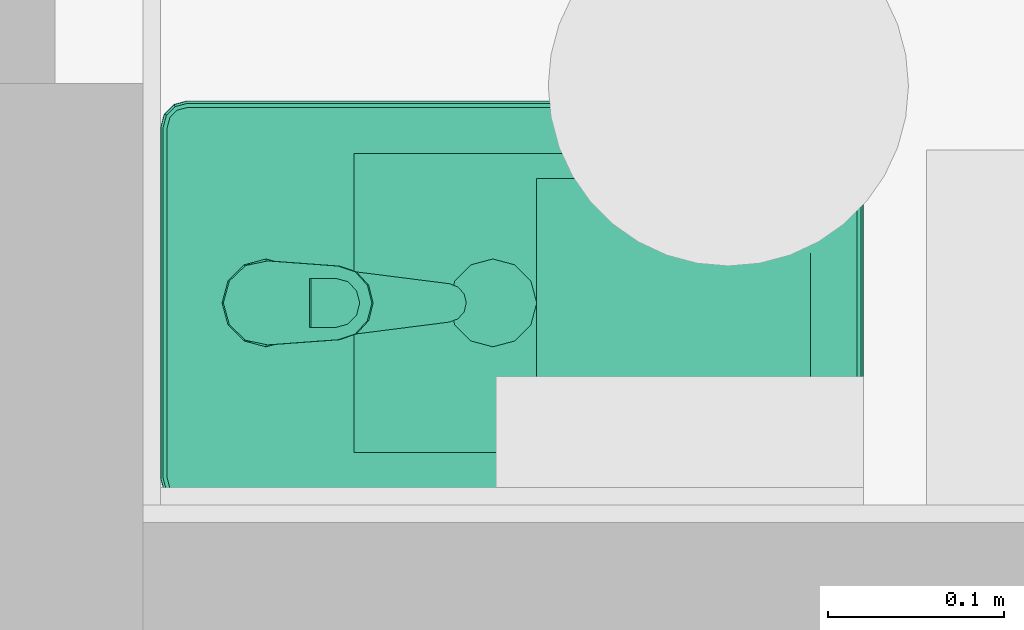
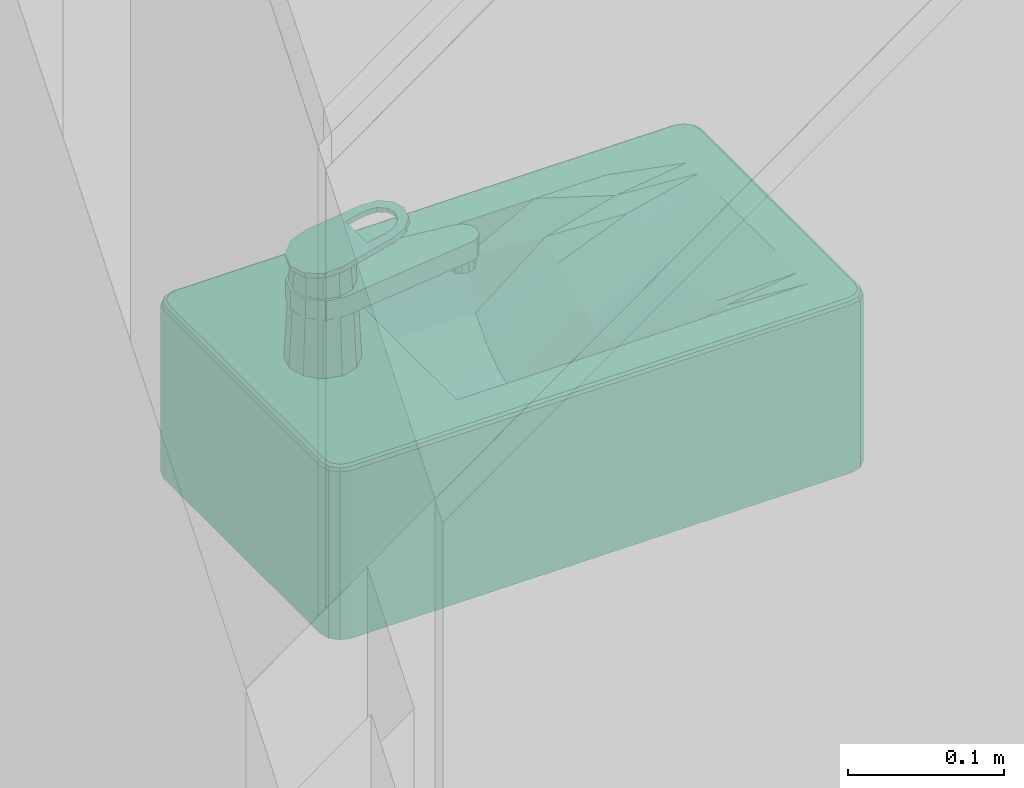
# One storey, part 262 of 301: 1 flow terminal.
"""IFC2X3 building model written with IfcOpenShell, lengths in millimetres."""

from ifc_helpers import new_model, entity, si_unit, converted_unit, derived_unit, money_unit, direction, frame, origin_with_axes, place, context, subcontext, project, spatial, open_shell, faceted_brep, surface_model, source, transform, mapped, type_object, element, save


model = new_model("IFC2X3")

# Units and contexts
model_context = context("Model", 3, precision=0.01, world=origin_with_axes(), true_north=direction((0.0, 1.0)))
body_context = subcontext(model_context, "Body", "Model", "MODEL_VIEW")
ifc_project = project(units=[si_unit("LENGTHUNIT", "METRE", prefix="MILLI"), si_unit("AREAUNIT", "SQUARE_METRE"), si_unit("VOLUMEUNIT", "CUBIC_METRE"), converted_unit("PLANEANGLEUNIT", "DEGREE", entity("IfcPlaneAngleMeasure", 0.0174532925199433), si_unit("PLANEANGLEUNIT", "RADIAN"), dimensions=[0, 0, 0, 0, 0, 0, 0]), money_unit("EUR"), converted_unit("TIMEUNIT", "Year", entity("IfcTimeMeasure", 31557600.0), si_unit("TIMEUNIT", "SECOND"), dimensions=[0, 0, 1, 0, 0, 0, 0]), si_unit("MASSUNIT", "GRAM", prefix="KILO"), si_unit("THERMODYNAMICTEMPERATUREUNIT", "DEGREE_CELSIUS"), si_unit("LUMINOUSINTENSITYUNIT", "LUMEN"), si_unit("ENERGYUNIT", "JOULE", prefix="MEGA"), derived_unit("THERMALCONDUCTANCEUNIT", [(si_unit("POWERUNIT", "WATT"), 1), (si_unit("LENGTHUNIT", "METRE"), -1), (si_unit("THERMODYNAMICTEMPERATUREUNIT", "KELVIN"), -1)]), derived_unit("SPECIFICHEATCAPACITYUNIT", [(si_unit("ENERGYUNIT", "JOULE"), 1), (si_unit("MASSUNIT", "GRAM", prefix="KILO"), -1), (si_unit("THERMODYNAMICTEMPERATUREUNIT", "KELVIN"), -1)]), derived_unit("MASSDENSITYUNIT", [(si_unit("MASSUNIT", "GRAM", prefix="KILO"), 1), (si_unit("VOLUMEUNIT", "CUBIC_METRE"), -1)])], contexts=[model_context])

# Site, building, storey
site_placement = place(None, frame((0.0, 0.0, 8650.0), z_axis=(0.0, 0.0, 1.0), x_axis=(1.0, 0.0, 0.0)))
site = spatial("IfcSite", under=ifc_project, at=site_placement, Name="43301:001:0844", CompositionType="ELEMENT")
building_placement = place(site_placement, origin_with_axes())
building = spatial("IfcBuilding", under=site, at=building_placement, Name="Kuressaare Ametikooli tuulikute mehaanikute õppekorpus", CompositionType="ELEMENT")
storey_placement = place(building_placement, origin_with_axes())
storey = spatial("IfcBuildingStorey", under=building, at=storey_placement, Name="1.korrus", CompositionType="ELEMENT", Elevation=0.0)

# Flow terminal
sanitary_terminal_type = type_object("IfcSanitaryTerminalType", Name="Basin 27", PredefinedType="NOTDEFINED")
shared_shape = source(origin_with_axes(), body_context, "Body", "SurfaceModel", [
    faceted_brep([(100.0, -400.0, 865.0), (-100.0, -400.0, 865.0), (-107.5, -397.9903810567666, 865.0), (-112.9903810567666, -392.5, 865.0), (-115.0, -385.0, 865.0), (-115.0, -14.99999999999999, 865.0), (-112.9903810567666, -7.500000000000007, 865.0), (-107.5, -2.009618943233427, 865.0), (-100.0, 0.0, 865.0), (100.0, 0.0, 865.0), (107.5, -2.009618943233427, 865.0), (112.9903810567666, -7.500000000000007, 865.0), (115.0, -14.99999999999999, 865.0), (115.0, -385.0, 865.0), (112.9903810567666, -392.5, 865.0), (107.5, -397.9903810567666, 865.0), (-85.0, -370.0, 865.0), (85.0, -370.0, 865.0), (85.0, -110.0, 865.0), (-85.0, -110.0, 865.0), (100.0000003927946, -400.0000003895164, 995.0), (-99.99999979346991, -400.0000003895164, 995.0), (-107.5000000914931, -397.9903813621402, 995.0), (-112.9903813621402, -392.5000000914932, 995.0), (-115.0000003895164, -384.99999979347, 995.0), (-115.0000003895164, -14.99999968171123, 995.0), (-112.9903813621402, -7.500000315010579, 995.0), (-107.5000000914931, -2.009619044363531, 995.0), (-99.99999979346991, -1.698735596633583e-08, 995.0), (100.0000003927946, -1.698735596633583e-08, 995.0), (107.4999997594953, -2.009619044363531, 995.0), (112.9903810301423, -7.500000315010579, 995.0), (115.0000000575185, -14.99999968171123, 995.0), (115.0000000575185, -384.99999979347, 995.0), (112.9903810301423, -392.5000000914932, 995.0), (107.4999997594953, -397.9903813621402, 995.0), (-85.0, -370.0, 999.9999996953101), (85.0, -370.0, 999.9999996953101), (85.0, -110.0, 999.9999996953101), (-85.0, -110.0, 999.9999996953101), (99.97757064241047, -399.8296295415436, 996.2940952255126), (-99.97757004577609, -399.8296295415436, 996.2940952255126), (-107.4118096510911, -397.8376310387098, 996.2940952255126), (-112.8376310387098, -392.4118096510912, 996.2940952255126), (-114.8296295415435, -384.9775700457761, 996.2940952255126), (-114.8296295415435, -15.02242943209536, 996.2940952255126), (-112.837631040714, -7.588190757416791, 996.2940952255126), (-107.4118096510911, -2.162369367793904, 996.2940952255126), (-99.97757004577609, -0.1703708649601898, 996.2940952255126), (99.97757064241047, -0.1703708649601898, 996.2940952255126), (107.4118093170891, -2.162369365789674, 996.2940952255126), (112.8376307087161, -7.588190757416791, 996.2940952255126), (114.8296292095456, -15.02242943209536, 996.2940952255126), (114.8296292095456, -384.9775700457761, 996.2940952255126), (112.8376307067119, -392.4118096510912, 996.2940952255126), (107.4118093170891, -397.8376310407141, 996.2940952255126), (-99.34173767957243, -4.999997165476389, 999.9999996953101), (-104.9118111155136, -6.492493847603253, 999.9999996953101), (-108.5075066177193, -10.08818934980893, 999.9999996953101), (-110.0000032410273, -15.65826187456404, 999.9999996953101), (-110.0000032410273, -384.3417376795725, 999.9999996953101), (-108.5075065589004, -389.9118111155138, 999.9999996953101), (-104.9118111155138, -393.5075065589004, 999.9999996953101), (-99.34173767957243, -395.0000032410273, 999.9999996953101), (99.34173819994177, -395.0000032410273, 999.9999996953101), (104.9118107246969, -393.5075066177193, 999.9999996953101), (108.5075062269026, -389.9118111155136, 999.9999996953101), (110.0000029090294, -384.3417376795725, 999.9999996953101), (110.0000029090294, -15.65826187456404, 999.9999996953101), (108.5075062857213, -10.08818934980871, 999.9999996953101), (104.9118107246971, -6.492493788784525, 999.9999996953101), (99.34173819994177, -4.999997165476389, 999.9999996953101), (99.80719978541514, -398.5355345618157, 998.5355339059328), (-99.80719920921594, -398.5355345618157, 998.5355339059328), (-106.7419367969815, -396.6773772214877, 998.5355339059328), (-111.6773772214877, -391.7419367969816, 998.5355339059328), (-113.5355345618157, -384.807199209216, 998.5355339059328), (-113.5355345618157, -15.1928002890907, 998.5355339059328), (-111.6773772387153, -8.258063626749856, 998.5355339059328), (-106.7419367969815, -3.322623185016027, 998.5355339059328), (-99.80719920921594, -1.464465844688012, 998.5355339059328), (99.80719978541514, -1.464465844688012, 998.5355339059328), (106.741936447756, -3.322623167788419, 998.5355339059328), (111.6773769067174, -8.258063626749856, 998.5355339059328), (113.5355342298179, -15.1928002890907, 998.5355339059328), (113.5355342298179, -384.807199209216, 998.5355339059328), (111.6773768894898, -391.7419367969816, 998.5355339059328), (106.741936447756, -396.6773772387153, 998.5355339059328), (-105.5816828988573, -5.332241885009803, 999.8296291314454), (-99.51210824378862, -3.70590425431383, 999.8296291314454), (-109.6677585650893, -9.41831755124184, 999.8296291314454), (-111.2940961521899, -15.48789128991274, 999.8296291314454), (-111.2940961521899, -384.5121082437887, 999.8296291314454), (-109.6677585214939, -390.5816828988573, 999.8296291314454), (-105.5816828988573, -394.667758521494, 999.8296291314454), (-99.51210824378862, -396.2940961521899, 999.8296291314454), (99.5121087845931, -396.2940961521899, 999.8296291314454), (105.581682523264, -394.6677585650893, 999.8296291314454), (109.667758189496, -390.5816828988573, 999.8296291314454), (111.294095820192, -384.5121082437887, 999.8296291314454), (111.294095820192, -15.48789128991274, 999.8296291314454), (109.6677582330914, -9.41831755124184, 999.8296291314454), (105.581682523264, -5.332241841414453, 999.8296291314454), (99.5121087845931, -3.70590425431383, 999.8296291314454)], [[[0, 1, 2, 3, 4, 5, 6, 7, 8, 9, 10, 11, 12, 13, 14, 15], [16, 17, 18, 19]], [[0, 20, 21, 1]], [[1, 21, 22, 2]], [[2, 22, 23, 3]], [[3, 23, 24, 4]], [[4, 24, 25, 5]], [[5, 25, 26, 6]], [[6, 26, 27, 7]], [[7, 27, 28, 8]], [[8, 28, 29, 9]], [[9, 29, 30, 10]], [[10, 30, 31, 11]], [[11, 31, 32, 12]], [[12, 32, 33, 13]], [[13, 33, 34, 14]], [[14, 34, 35, 15]], [[15, 35, 20, 0]], [[36, 37, 17, 16]], [[37, 38, 18, 17]], [[38, 39, 19, 18]], [[39, 36, 16, 19]], [[20, 40, 41, 21]], [[21, 41, 42, 22]], [[22, 42, 43, 23]], [[23, 43, 44, 24]], [[24, 44, 45, 25]], [[25, 45, 46, 26]], [[26, 46, 47, 27]], [[27, 47, 48, 28]], [[28, 48, 49, 29]], [[29, 49, 50, 30]], [[30, 50, 51, 31]], [[31, 51, 52, 32]], [[32, 52, 53, 33]], [[33, 53, 54, 34]], [[34, 54, 55, 35]], [[35, 55, 40, 20]], [[56, 57, 58, 59, 60, 61, 62, 63, 64, 65, 66, 67, 68, 69, 70, 71], [36, 39, 38, 37]], [[40, 72, 73, 41]], [[41, 73, 74, 42]], [[42, 74, 75, 43]], [[43, 75, 76, 44]], [[44, 76, 77, 45]], [[45, 77, 78, 46]], [[46, 78, 79, 47]], [[47, 79, 80, 48]], [[48, 80, 81, 49]], [[49, 81, 82, 50]], [[50, 82, 83, 51]], [[51, 83, 84, 52]], [[52, 84, 85, 53]], [[53, 85, 86, 54]], [[54, 86, 87, 55]], [[55, 87, 72, 40]], [[88, 57, 56, 89]], [[90, 58, 57, 88]], [[91, 59, 58, 90]], [[92, 60, 59, 91]], [[93, 61, 60, 92]], [[94, 62, 61, 93]], [[95, 63, 62, 94]], [[96, 64, 63, 95]], [[97, 65, 64, 96]], [[98, 66, 65, 97]], [[99, 67, 66, 98]], [[100, 68, 67, 99]], [[101, 69, 68, 100]], [[102, 70, 69, 101]], [[103, 71, 70, 102]], [[89, 56, 71, 103]], [[72, 96, 95, 73]], [[73, 95, 94, 74]], [[74, 94, 93, 75]], [[75, 93, 92, 76]], [[76, 92, 91, 77]], [[77, 91, 90, 78]], [[78, 90, 88, 79]], [[79, 88, 89, 80]], [[80, 89, 103, 81]], [[81, 103, 102, 82]], [[82, 102, 101, 83]], [[83, 101, 100, 84]], [[84, 100, 99, 85]], [[85, 99, 98, 86]], [[86, 98, 97, 87]], [[87, 97, 96, 72]]]),
    faceted_brep([(-85.0, -370.0, 865.0), (-85.0, -110.0, 865.0), (85.0, -110.0, 865.0), (85.0, -370.0, 865.0), (12.49999999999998, -210.733635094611, 865.0), (21.65063509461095, -201.583, 865.0), (25.0, -189.083, 865.0), (21.65063509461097, -176.583, 865.0), (12.50000000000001, -167.4323649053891, 865.0), (0.0, -164.083, 865.0), (-12.49999999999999, -167.4323649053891, 865.0), (-21.65063509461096, -176.583, 865.0), (-25.0, -189.083, 865.0), (-21.65063509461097, -201.583, 865.0), (-12.50000000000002, -210.733635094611, 865.0), (0.0, -214.083, 865.0), (-85.0, -266.0, 1000.0), (-85.0, -214.0, 972.25), (-85.0, -162.0, 972.25), (-85.0, -110.0, 972.25), (-85.0, -370.0, 1000.0), (-85.0, -318.0, 1000.0), (42.49999999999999, -110.0, 911.2166184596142), (56.66666666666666, -110.0, 921.2681999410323), (70.83333333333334, -110.0, 937.1336281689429), (85.0, -110.0, 972.2499999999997), (-70.83333333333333, -110.0, 937.133628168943), (-56.66666666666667, -110.0, 921.2681999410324), (-42.5, -110.0, 911.2166184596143), (-28.33333333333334, -110.0, 904.7939613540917), (-14.16666666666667, -110.0, 901.173124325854), (0.0, -110.0, 900.0), (14.16666666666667, -110.0, 901.173124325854), (28.33333333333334, -110.0, 904.7939613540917), (85.0, -214.0, 972.2499999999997), (85.0, -266.0, 999.9999999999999), (85.0, -318.0, 1000.0), (85.0, -370.0, 1000.0), (85.0, -162.0, 972.2499999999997), (-42.5, -370.0, 1000.0), (-56.66666666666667, -370.0, 1000.0), (-70.83333333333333, -370.0, 1000.0), (70.83333333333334, -370.0, 1000.0), (56.66666666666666, -370.0, 1000.0), (42.49999999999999, -370.0, 1000.0), (28.33333333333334, -370.0, 1000.0), (14.16666666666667, -370.0, 1000.0), (0.0, -370.0, 1000.0), (-14.16666666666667, -370.0, 1000.0), (-28.33333333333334, -370.0, 1000.0), (14.16666666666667, -209.0669684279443, 901.173124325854), (21.65063509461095, -201.583, 903.0859405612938), (12.49999999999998, -210.733635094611, 901.0351096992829), (25.0, -189.083, 903.9419997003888), (21.65063509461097, -176.583, 903.0859405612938), (14.16666666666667, -169.0990315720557, 901.173124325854), (12.50000000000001, -167.4323649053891, 901.035109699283), (0.0, -164.083, 900.0), (-12.49999999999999, -167.4323649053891, 901.035109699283), (-14.16666666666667, -169.0990315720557, 901.173124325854), (-21.65063509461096, -176.583, 903.0859405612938), (-25.0, -189.083, 903.9419997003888), (-21.65063509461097, -201.583, 903.0859405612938), (-14.16666666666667, -209.0669684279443, 901.173124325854), (-12.50000000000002, -210.733635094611, 901.035109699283), (-0.02107381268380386, -214.0773532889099, 900.0716455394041), (0.0, -214.083, 900.0751753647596), (-0.3097602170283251, -214.0, 900.0256508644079), (0.3097602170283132, -214.0, 900.0256508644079), (-70.83333333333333, -214.0, 937.133628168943), (-70.83333333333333, -162.0, 937.133628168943), (-70.83333333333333, -318.0, 992.8049756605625), (-70.83333333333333, -266.0, 978.92400992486), (56.66666666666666, -162.0, 921.2681999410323), (42.49999999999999, -162.0, 911.2166184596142), (70.83333333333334, -162.0, 937.1336281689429), (-56.66666666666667, -162.0, 921.2681999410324), (-42.5, -162.0, 911.2166184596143), (-28.33333333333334, -162.0, 904.7939613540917), (-14.16666666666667, -162.0, 901.173124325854), (0.0, -162.0, 900.0), (14.16666666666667, -162.0, 901.173124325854), (28.33333333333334, -162.0, 904.7939613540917), (70.83333333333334, -266.0, 978.92400992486), (70.83333333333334, -318.0, 992.8049756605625), (70.83333333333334, -214.0, 937.1336281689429), (-42.5, -318.0, 982.8921917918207), (-56.66666666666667, -318.0, 987.1546857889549), (56.66666666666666, -318.0, 987.1546857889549), (42.49999999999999, -318.0, 982.8921917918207), (28.33333333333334, -318.0, 979.9130117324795), (14.16666666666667, -318.0, 978.1503189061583), (0.0, -318.0, 977.5667630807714), (-14.16666666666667, -318.0, 978.1503189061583), (-28.33333333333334, -318.0, 979.9130117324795), (14.16666666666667, -214.0, 901.173124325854), (28.33333333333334, -214.0, 904.7939613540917), (-28.33333333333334, -214.0, 904.7939613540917), (-14.16666666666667, -214.0, 901.173124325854), (-14.16666666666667, -266.0, 948.1630206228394), (0.0, -266.0, 947.0978188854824), (-56.66666666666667, -214.0, 921.2681999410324), (56.66666666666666, -214.0, 921.2681999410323), (42.49999999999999, -214.0, 911.2166184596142), (-42.5, -214.0, 911.2166184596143), (14.16666666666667, -266.0, 948.1630206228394), (-28.33333333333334, -266.0, 951.4339022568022), (-56.66666666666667, -266.0, 965.9137620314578), (42.49999999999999, -266.0, 957.1657026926), (56.66666666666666, -266.0, 965.9137620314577), (-42.5, -266.0, 957.1657026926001), (28.33333333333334, -266.0, 951.4339022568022)], [[[0, 1, 2, 3], [4, 5, 6, 7, 8, 9, 10, 11, 12, 13, 14, 15]], [[16, 17, 18, 19, 1, 0, 20, 21]], [[22, 23, 24, 25, 2, 1, 19, 26, 27, 28, 29, 30, 31, 32, 33]], [[34, 35, 36, 37, 3, 2, 25, 38]], [[39, 40, 41, 20, 0, 3, 37, 42, 43, 44, 45, 46, 47, 48, 49]], [[50, 51, 5, 4, 52]], [[51, 53, 6, 5]], [[53, 54, 7, 6]], [[54, 55, 56, 8, 7]], [[56, 57, 9, 8]], [[57, 58, 10, 9]], [[58, 59, 60, 11, 10]], [[60, 61, 12, 11]], [[61, 62, 13, 12]], [[63, 64, 14, 13, 62]], [[65, 66, 15, 14, 64, 67]], [[68, 52, 4, 15, 66]], [[16, 69, 17]], [[69, 70, 18, 17]], [[70, 26, 19, 18]], [[20, 71, 21]], [[21, 72, 16]], [[73, 23, 22, 74]], [[75, 24, 23, 73]], [[38, 25, 24, 75]], [[76, 27, 26, 70]], [[77, 28, 27, 76]], [[78, 29, 28, 77]], [[79, 30, 29, 78]], [[80, 31, 30, 79]], [[81, 32, 31, 80]], [[82, 33, 32, 81]], [[74, 22, 33, 82]], [[83, 35, 34]], [[84, 36, 35]], [[42, 37, 36]], [[34, 38, 75, 85]], [[40, 39, 86]], [[41, 40, 87]], [[20, 41, 71]], [[43, 42, 84]], [[44, 43, 88]], [[45, 44, 89]], [[46, 45, 90]], [[47, 46, 91]], [[48, 47, 92]], [[49, 48, 93]], [[39, 49, 94]], [[55, 54, 53, 51, 50, 95, 96, 82, 81]], [[52, 68, 95, 50]], [[56, 55, 81, 80, 57]], [[58, 57, 80, 79, 59]], [[60, 59, 79, 78, 97, 98, 63, 62, 61]], [[64, 63, 98, 67]], [[66, 65, 99, 100]], [[65, 67, 98, 99]], [[68, 66, 100, 95]], [[16, 72, 69]], [[101, 76, 70, 69]], [[21, 71, 72]], [[102, 73, 74, 103]], [[85, 75, 73, 102]], [[104, 77, 76, 101]], [[97, 78, 77, 104]], [[103, 74, 82, 96]], [[84, 35, 83]], [[83, 34, 85]], [[42, 36, 84]], [[39, 94, 86]], [[40, 86, 87]], [[41, 87, 71]], [[43, 84, 88]], [[44, 88, 89]], [[45, 89, 90]], [[46, 90, 91]], [[47, 91, 92]], [[48, 92, 93]], [[49, 93, 94]], [[105, 96, 95]], [[106, 98, 97]], [[93, 100, 99]], [[106, 99, 98]], [[100, 105, 95]], [[72, 101, 69]], [[71, 107, 72]], [[108, 102, 103]], [[109, 85, 102]], [[107, 104, 101]], [[110, 97, 104]], [[111, 103, 96]], [[88, 84, 83]], [[109, 83, 85]], [[86, 94, 106]], [[87, 86, 110]], [[71, 87, 107]], [[89, 88, 109]], [[90, 89, 108]], [[91, 90, 111]], [[92, 91, 105]], [[93, 92, 100]], [[94, 93, 99]], [[105, 111, 96]], [[110, 106, 97]], [[94, 99, 106]], [[92, 105, 100]], [[72, 107, 101]], [[108, 109, 102]], [[111, 108, 103]], [[107, 110, 104]], [[88, 83, 109]], [[86, 106, 110]], [[87, 110, 107]], [[89, 109, 108]], [[90, 108, 111]], [[91, 111, 105]]]),
    faceted_brep([(21.65063509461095, -201.583, 900.0), (12.49999999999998, -210.733635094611, 900.0), (0.0, -214.083, 900.0), (-12.50000000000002, -210.733635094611, 900.0), (-21.65063509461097, -201.583, 900.0), (-25.0, -189.083, 900.0), (-21.65063509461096, -176.583, 900.0), (-12.49999999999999, -167.4323649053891, 900.0), (0.0, -164.083, 900.0), (12.50000000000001, -167.4323649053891, 900.0), (21.65063509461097, -176.583, 900.0), (25.0, -189.083, 900.0), (21.65063509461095, -201.583, 905.0), (12.49999999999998, -210.733635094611, 905.0), (0.0, -214.083, 905.0), (-12.50000000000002, -210.733635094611, 905.0), (-21.65063509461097, -201.583, 905.0), (-25.0, -189.083, 905.0), (-21.65063509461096, -176.583, 905.0), (-12.49999999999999, -167.4323649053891, 905.0), (0.0, -164.083, 905.0), (12.50000000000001, -167.4323649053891, 905.0), (21.65063509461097, -176.583, 905.0), (25.0, -189.083, 905.0)], [[[0, 1, 2, 3, 4, 5, 6, 7, 8, 9, 10, 11]], [[1, 0, 12, 13]], [[2, 1, 13, 14]], [[3, 2, 14, 15]], [[4, 3, 15, 16]], [[5, 4, 16, 17]], [[6, 5, 17, 18]], [[7, 6, 18, 19]], [[8, 7, 19, 20]], [[9, 8, 20, 21]], [[10, 9, 21, 22]], [[11, 10, 22, 23]], [[0, 11, 23, 12]], [[12, 23, 22, 21, 20, 19, 18, 17, 16, 15, 14, 13]]]),
    surface_model("IfcShellBasedSurfaceModel", [(0.0, -189.083, 907.0), (0.0, -176.46109443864, 906.4975737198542), (-6.310952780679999, -178.1521091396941, 906.4975737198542), (6.310952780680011, -178.1521091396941, 906.4975737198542), (0.0, -164.083, 905.0), (-12.5, -167.4323649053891, 905.0), (-10.93089086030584, -182.77204721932, 906.4975737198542), (10.93089086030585, -182.77204721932, 906.4975737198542), (12.50000000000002, -167.4323649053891, 905.0), (-21.65063509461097, -176.583, 905.0), (-12.62190556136, -189.083, 906.4975737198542), (12.62190556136, -189.083, 906.4975737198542), (21.65063509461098, -176.583, 905.0), (-25.0, -189.083, 905.0), (-10.93089086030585, -195.39395278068, 906.4975737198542), (10.93089086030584, -195.39395278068, 906.4975737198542), (25.0, -189.083, 905.0), (-21.65063509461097, -201.583, 905.0), (-6.310952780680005, -200.0138908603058, 906.4975737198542), (6.310952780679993, -200.0138908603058, 906.4975737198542), (21.65063509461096, -201.583, 905.0), (-12.50000000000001, -210.733635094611, 905.0), (0.0, -201.70490556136, 906.4975737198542), (12.49999999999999, -210.733635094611, 905.0), (0.0, -214.083, 905.0)], [open_shell([[[0, 1, 2]], [[0, 3, 1]], [[2, 1, 4, 5]], [[0, 2, 6]], [[0, 7, 3]], [[1, 3, 8, 4]], [[6, 2, 5, 9]], [[0, 6, 10]], [[0, 11, 7]], [[3, 7, 12, 8]], [[10, 6, 9, 13]], [[0, 10, 14]], [[0, 15, 11]], [[7, 11, 16, 12]], [[14, 10, 13, 17]], [[0, 14, 18]], [[0, 19, 15]], [[11, 15, 20, 16]], [[18, 14, 17, 21]], [[0, 18, 22]], [[0, 22, 19]], [[15, 19, 23, 20]], [[22, 18, 21, 24]], [[19, 22, 24, 23]]])]),
    faceted_brep([(12.50000000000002, -38.34936490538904, 1000.0), (0.0, -34.99999999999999, 1000.0), (0.0, -38.79807692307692, 1075.961538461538), (10.587322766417, -41.66221905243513, 1076.507089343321), (21.65063509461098, -47.50000000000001, 1000.0), (25.0, -60.00000000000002, 1000.0), (21.65063509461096, -72.50000000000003, 1000.0), (12.49999999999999, -81.65063509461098, 1000.0), (0.0, -84.99999999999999, 1000.0), (-12.50000000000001, -81.65063509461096, 1000.0), (-21.65063509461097, -72.5, 1000.0), (-25.0, -59.99999999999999, 1000.0), (-21.65063509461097, -47.49999999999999, 1000.0), (-12.5, -38.34936490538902, 1000.0), (-10.58732276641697, -41.66221905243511, 1076.507089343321), (-18.27355038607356, -49.44976076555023, 1077.99043062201), (-21.0, -59.99999999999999, 1080.0), (-18.10034137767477, -70.45023696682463, 1081.990521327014), (-10.41410590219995, -78.0377605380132, 1083.435763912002), (0.0, -80.80188679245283, 1083.962264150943), (10.41410590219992, -78.03776053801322, 1083.435763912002), (18.10034137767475, -70.45023696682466, 1081.990521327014), (21.0, -60.00000000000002, 1080.0), (18.27355038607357, -49.44976076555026, 1077.99043062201)], [[[0, 1, 2, 3]], [[0, 4, 5, 6, 7, 8, 9, 10, 11, 12, 13, 1]], [[1, 13, 14, 2]], [[3, 2, 14, 15, 16, 17, 18, 19, 20, 21, 22, 23]], [[4, 0, 3, 23]], [[5, 4, 23, 22]], [[6, 5, 22, 21]], [[7, 6, 21, 20]], [[8, 7, 20, 19]], [[9, 8, 19, 18]], [[10, 9, 18, 17]], [[11, 10, 17, 16]], [[12, 11, 16, 15]], [[13, 12, 15, 14]]]),
    faceted_brep([(9.000000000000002, -163.0, 1035.0), (7.794228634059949, -158.5, 1035.0), (7.794228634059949, -158.5, 1045.0), (9.000000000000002, -163.0, 1045.0), (7.794228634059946, -167.5, 1035.0), (4.499999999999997, -170.79422863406, 1035.0), (0.0, -172.0, 1035.0), (-4.500000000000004, -170.79422863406, 1035.0), (-7.794228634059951, -167.5, 1035.0), (-9.000000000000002, -163.0, 1035.0), (-7.794228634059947, -158.5, 1035.0), (-4.499999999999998, -155.2057713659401, 1035.0), (0.0, -154.0, 1035.0), (4.500000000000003, -155.2057713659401, 1035.0), (4.500000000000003, -155.2057713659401, 1045.0), (0.0, -154.0, 1045.0), (-4.499999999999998, -155.2057713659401, 1045.0), (-7.794228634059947, -158.5, 1045.0), (-9.000000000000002, -163.0, 1045.0), (-7.794228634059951, -167.5, 1045.0), (-4.500000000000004, -170.79422863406, 1045.0), (0.0, -172.0, 1045.0), (4.499999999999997, -170.79422863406, 1045.0), (7.794228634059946, -167.5, 1045.0)], [[[0, 1, 2, 3]], [[0, 4, 5, 6, 7, 8, 9, 10, 11, 12, 13, 1]], [[1, 13, 14, 2]], [[3, 2, 14, 15, 16, 17, 18, 19, 20, 21, 22, 23]], [[4, 0, 3, 23]], [[5, 4, 23, 22]], [[6, 5, 22, 21]], [[7, 6, 21, 20]], [[8, 7, 20, 19]], [[9, 8, 19, 18]], [[10, 9, 18, 17]], [[11, 10, 17, 16]], [[12, 11, 16, 15]], [[13, 12, 15, 14]]]),
    faceted_brep([(-12.87171762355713, -39.74369617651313, 1060.0), (-21.72780530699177, -49.80679463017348, 1060.0), (-23.8054, -63.04989999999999, 1060.0), (-10.9119908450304, -164.3883719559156, 1060.0), (-9.02887546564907, -169.2831941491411, 1060.0), (-5.093324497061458, -172.7497264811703, 1060.0), (3.626798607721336e-05, -173.9999600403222, 1060.0), (5.093388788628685, -172.7496928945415, 1060.0), (9.02891689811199, -169.2831346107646, 1060.0), (10.912, -164.3883, 1060.0), (23.80539974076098, -63.04990202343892, 1060.0), (21.72780617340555, -49.80679647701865, 1060.0), (12.87171934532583, -39.74369727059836, 1060.0), (1.019988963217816e-06, -36.00002168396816, 1060.0), (11.00000000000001, -40.94744111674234, 1060.0), (19.05255888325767, -48.99999999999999, 1060.0), (22.00000000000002, -60.0, 1060.0), (19.05255888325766, -71.00000000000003, 1060.0), (10.99999999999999, -79.05255888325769, 1060.0), (0.0, -82.0, 1060.0), (-11.00000000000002, -79.05255888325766, 1060.0), (-19.05255888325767, -70.99999999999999, 1060.0), (-22.00000000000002, -59.99999999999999, 1060.0), (-19.05255888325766, -48.99999999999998, 1060.0), (-11.0, -40.94744111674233, 1060.0), (0.0, -37.99999999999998, 1060.0), (-21.72780530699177, -49.80679463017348, 1045.0), (-12.87171762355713, -39.74369617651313, 1045.0), (-23.8054, -63.04989999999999, 1045.0), (-10.9119908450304, -164.3883719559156, 1045.0), (-9.02887546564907, -169.2831941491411, 1045.0), (-5.093324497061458, -172.7497264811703, 1045.0), (3.626798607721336e-05, -173.9999600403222, 1045.0), (5.093388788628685, -172.7496928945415, 1045.0), (9.02891689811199, -169.2831346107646, 1045.0), (10.912, -164.3883, 1045.0), (23.80539974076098, -63.04990202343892, 1045.0), (21.72780617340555, -49.80679647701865, 1045.0), (12.87171934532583, -39.74369727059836, 1045.0), (1.019988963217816e-06, -36.00002168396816, 1045.0), (11.37500000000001, -40.297922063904, 1045.0), (19.70207793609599, -48.62499999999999, 1045.0), (22.75000000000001, -60.0, 1045.0), (19.70207793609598, -71.37500000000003, 1045.0), (11.37499999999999, -79.702077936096, 1045.0), (0.0, -82.75, 1045.0), (-11.37500000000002, -79.70207793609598, 1045.0), (-19.70207793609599, -71.375, 1045.0), (-22.75000000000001, -59.99999999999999, 1045.0), (-19.70207793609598, -48.62499999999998, 1045.0), (-11.375, -40.297922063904, 1045.0), (0.0, -37.24999999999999, 1045.0)], [[[0, 1, 2, 3, 4, 5, 6, 7, 8, 9, 10, 11, 12, 13], [14, 15, 16, 17, 18, 19, 20, 21, 22, 23, 24, 25]], [[26, 1, 0, 27]], [[28, 2, 1, 26]], [[29, 3, 2, 28]], [[30, 4, 3, 29]], [[31, 5, 4, 30]], [[32, 6, 5, 31]], [[33, 7, 6, 32]], [[34, 8, 7, 33]], [[35, 9, 8, 34]], [[36, 10, 9, 35]], [[37, 11, 10, 36]], [[38, 12, 11, 37]], [[39, 13, 12, 38]], [[27, 0, 13, 39]], [[40, 41, 15, 14]], [[41, 42, 16, 15]], [[42, 43, 17, 16]], [[43, 44, 18, 17]], [[44, 45, 19, 18]], [[20, 19, 45, 46]], [[21, 20, 46, 47]], [[22, 21, 47, 48]], [[23, 22, 48, 49]], [[24, 23, 49, 50]], [[50, 51, 25, 24]], [[51, 40, 14, 25]], [[32, 31, 30, 29, 28, 26, 27, 39, 38, 37, 36, 35, 34, 33], [44, 43, 42, 41, 40, 51, 50, 49, 48, 47, 46, 45]]]),
    faceted_brep([(23.893, -61.69256934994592, 1080.322394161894), (21.29642141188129, -49.22528119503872, 1077.947672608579), (21.29642141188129, -48.47683276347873, 1081.877026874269), (23.893, -60.94412091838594, 1084.251748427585), (20.94593649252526, -101.8367022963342, 1087.968895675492), (17.66313911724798, -111.514366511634, 1089.81226028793), (10.06143529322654, -118.4637460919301, 1091.135951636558), (-0.0004426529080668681, -120.9856119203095, 1091.61630703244), (-10.06221236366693, -118.4633294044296, 1091.13587226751), (-17.66361794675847, -111.5136350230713, 1089.812120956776), (-20.946, -101.8358348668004, 1087.968730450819), (-23.89302047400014, -61.69229042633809, 1080.322341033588), (-21.29629106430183, -49.22503258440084, 1077.947625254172), (-12.4716815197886, -39.90880255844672, 1076.173105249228), (0.0001423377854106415, -36.46803549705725, 1075.517721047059), (12.47192457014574, -39.90894815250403, 1076.173132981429), (14.0, -85.54080272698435, 1084.86491480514), (-14.0, -85.54080272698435, 1084.86491480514), (-14.0, -100.3564329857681, 1087.686939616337), (-12.12435565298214, -107.2328029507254, 1088.996724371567), (-7.000000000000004, -112.2666551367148, 1089.955553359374), (0.0, -114.1091729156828, 1090.306509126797), (6.999999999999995, -112.2666551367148, 1089.955553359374), (12.12435565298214, -107.2328029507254, 1088.996724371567), (14.0, -100.3564329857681, 1087.686939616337), (12.47192457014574, -39.16049972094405, 1080.102487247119), (0.0001423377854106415, -35.71958706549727, 1079.447075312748), (-12.4716815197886, -39.16035412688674, 1080.102459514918), (-21.29629106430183, -48.47658415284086, 1081.876979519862), (-23.89302047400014, -60.9438419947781, 1084.251695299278), (-20.946, -101.0873864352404, 1091.898084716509), (-17.66361794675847, -110.7651865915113, 1093.741475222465), (-10.06221236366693, -117.7148809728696, 1095.0652265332), (-0.0004426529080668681, -120.2371634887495, 1095.54566129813), (10.06143529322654, -117.7152976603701, 1095.065305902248), (17.66313911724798, -110.765918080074, 1093.74161455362), (20.94593649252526, -101.0882538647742, 1091.898249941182), (14.0, -84.79235429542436, 1088.79426907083), (14.0, -99.60798455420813, 1091.616293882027), (12.12435565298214, -106.4843545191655, 1092.926078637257), (6.999999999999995, -111.5182067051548, 1093.884907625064), (0.0, -113.3607244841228, 1094.235863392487), (-7.000000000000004, -111.5182067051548, 1093.884907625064), (-12.12435565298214, -106.4843545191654, 1092.926078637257), (-14.0, -99.60798455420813, 1091.616293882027), (-14.0, -84.79235429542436, 1088.79426907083)], [[[0, 1, 2, 3]], [[0, 4, 5, 6, 7, 8, 9, 10, 11, 12, 13, 14, 15, 1], [16, 17, 18, 19, 20, 21, 22, 23, 24]], [[1, 15, 25, 2]], [[3, 2, 25, 26, 27, 28, 29, 30, 31, 32, 33, 34, 35, 36], [37, 38, 39, 40, 41, 42, 43, 44, 45]], [[4, 0, 3, 36]], [[5, 4, 36, 35]], [[6, 5, 35, 34]], [[7, 6, 34, 33]], [[8, 7, 33, 32]], [[9, 8, 32, 31]], [[10, 9, 31, 30]], [[11, 10, 30, 29]], [[12, 11, 29, 28]], [[13, 12, 28, 27]], [[14, 13, 27, 26]], [[15, 14, 26, 25]], [[17, 16, 37, 45]], [[18, 17, 45, 44]], [[19, 18, 44, 43]], [[20, 19, 43, 42]], [[21, 20, 42, 41]], [[22, 21, 41, 40]], [[23, 22, 40, 39]], [[24, 23, 39, 38]], [[16, 24, 38, 37]]]),
])
flow_terminal_placement = place(storey_placement, frame((125215.2605651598, 21399.47128298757, 0.0), z_axis=(0.0, 0.0, 1.0), x_axis=(0.0, 1.0, 0.0)))
element("IfcFlowTerminal", 1, at=flow_terminal_placement, inside=storey, type_object=sanitary_terminal_type, Name="V2", context=body_context, shape_type="MappedRepresentation", body=[
    mapped(shared_shape, transform((0.0, 0.0, 0.0))),
])

save(model, "model.ifc")
